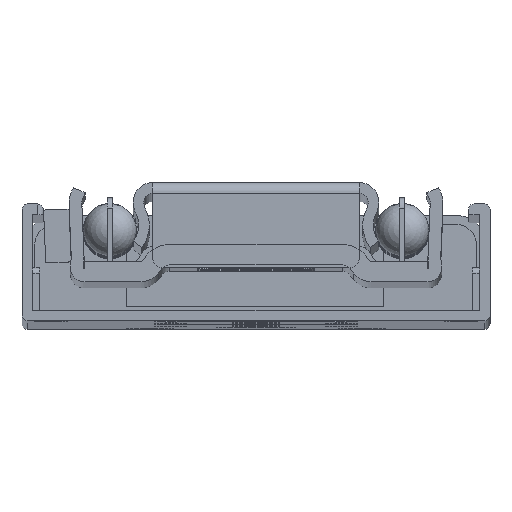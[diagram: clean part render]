
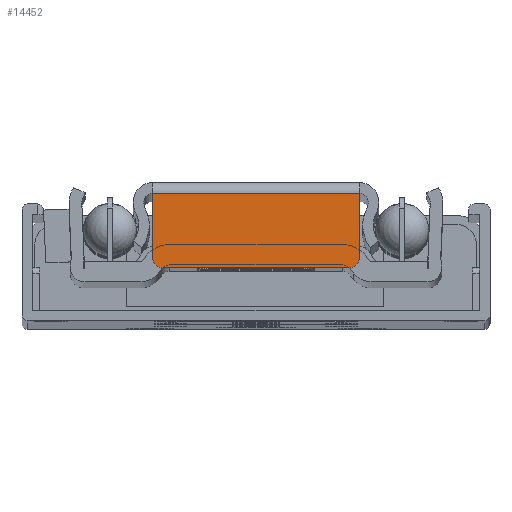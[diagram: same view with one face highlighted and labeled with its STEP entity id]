
A CAD part, top view. The second image highlights one B-rep face of the part: STEP entity #14452.
In plain terms, the highlighted planar face has unit normal (0, 0, 1).
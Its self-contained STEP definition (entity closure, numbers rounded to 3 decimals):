
#681=PLANE('',#15844);
#1398=FACE_OUTER_BOUND('',#2273,.T.);
#2273=EDGE_LOOP('',(#13115,#13116,#13117,#13118,#13119,#13120));
#3665=LINE('',#24322,#5077);
#3666=LINE('',#24325,#5078);
#3667=LINE('',#24329,#5079);
#3668=LINE('',#24332,#5080);
#5077=VECTOR('',#19867,10.);
#5078=VECTOR('',#19870,10.);
#5079=VECTOR('',#19873,10.);
#5080=VECTOR('',#19876,10.);
#5787=CIRCLE('',#15845,1.);
#5788=CIRCLE('',#15846,1.);
#7118=VERTEX_POINT('',#24315);
#7121=VERTEX_POINT('',#24320);
#7122=VERTEX_POINT('',#24324);
#7123=VERTEX_POINT('',#24326);
#7124=VERTEX_POINT('',#24328);
#7125=VERTEX_POINT('',#24330);
#9165=EDGE_CURVE('',#7121,#7118,#3665,.T.);
#9166=EDGE_CURVE('',#7121,#7122,#3666,.T.);
#9167=EDGE_CURVE('',#7123,#7122,#5787,.T.);
#9168=EDGE_CURVE('',#7123,#7124,#3667,.T.);
#9169=EDGE_CURVE('',#7125,#7124,#5788,.T.);
#9170=EDGE_CURVE('',#7118,#7125,#3668,.T.);
#13115=ORIENTED_EDGE('',*,*,#9165,.F.);
#13116=ORIENTED_EDGE('',*,*,#9166,.T.);
#13117=ORIENTED_EDGE('',*,*,#9167,.F.);
#13118=ORIENTED_EDGE('',*,*,#9168,.T.);
#13119=ORIENTED_EDGE('',*,*,#9169,.F.);
#13120=ORIENTED_EDGE('',*,*,#9170,.F.);
#14452=ADVANCED_FACE('',(#1398),#681,.T.);
#15844=AXIS2_PLACEMENT_3D('',#24323,#19868,#19869);
#15845=AXIS2_PLACEMENT_3D('',#24327,#19871,#19872);
#15846=AXIS2_PLACEMENT_3D('',#24331,#19874,#19875);
#19867=DIRECTION('',(-1.,0.,0.));
#19868=DIRECTION('center_axis',(0.,0.,1.));
#19869=DIRECTION('ref_axis',(1.,0.,0.));
#19870=DIRECTION('',(0.,1.,0.));
#19871=DIRECTION('center_axis',(0.,0.,-1.));
#19872=DIRECTION('ref_axis',(0.707,0.707,0.));
#19873=DIRECTION('',(-1.,0.,0.));
#19874=DIRECTION('center_axis',(0.,0.,-1.));
#19875=DIRECTION('ref_axis',(-0.707,0.707,0.));
#19876=DIRECTION('',(0.,1.,0.));
#24315=CARTESIAN_POINT('',(4.892,-4.95,449.));
#24320=CARTESIAN_POINT('',(24.354,-4.95,449.));
#24322=CARTESIAN_POINT('',(19.501,-4.95,449.));
#24323=CARTESIAN_POINT('Origin',(24.354,-5.95,449.));
#24324=CARTESIAN_POINT('',(24.354,1.05,449.));
#24325=CARTESIAN_POINT('',(24.354,-5.95,449.));
#24326=CARTESIAN_POINT('',(23.354,2.05,449.));
#24327=CARTESIAN_POINT('Origin',(23.354,1.05,449.));
#24328=CARTESIAN_POINT('',(5.892,2.05,449.));
#24329=CARTESIAN_POINT('',(24.354,2.05,449.));
#24330=CARTESIAN_POINT('',(4.892,1.05,449.));
#24331=CARTESIAN_POINT('Origin',(5.892,1.05,449.));
#24332=CARTESIAN_POINT('',(4.892,-5.95,449.));
